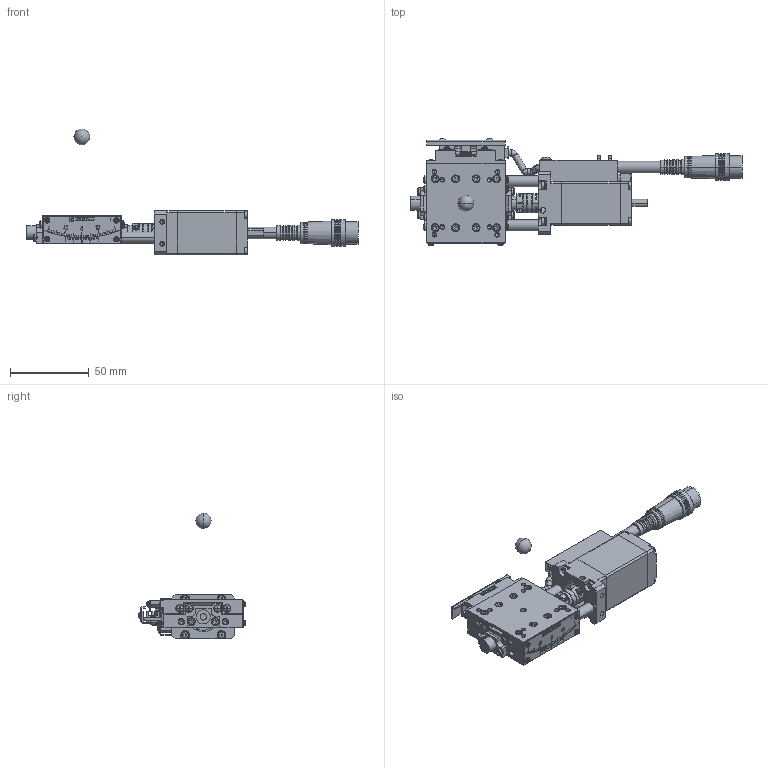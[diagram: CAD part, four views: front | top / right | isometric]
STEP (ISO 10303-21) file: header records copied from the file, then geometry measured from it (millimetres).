
FILE_DESCRIPTION (( 'STEP AP203' ), '1' );
FILE_NAME ('SA05B-RT02.STEP', '2019-02-20T06:37:24', ( '' ), ( '' ), 'SwSTEP 2.0', 'SolidWorks 2018', '' );
FILE_SCHEMA (( 'CONFIG_CONTROL_DESIGN' ));
Length unit declared in the file: millimetre
Products named in the file (8): rotation center; base-Part-3; SA05B-RT02; base-Part-4; base-Part-1; base-Part-2; table; base
Assembly tree (6 placements, depth 3):
  SA05B-RT02
    base
      base-Part-1
      base-Part-2
      base-Part-3
    table
    rotation center
  base-Part-4
Bounding box: 211 x 67.96 x 80 mm (x, y, z)
Volume: 108518.6 mm3; surface area: 48399.5 mm2
Topology: 5 solids, 5 shells, 2707 faces, 6806 edges, 4221 vertices
Faces by surface type: plane 1668, cylinder 633, cone 222, torus 128, sphere 50, bspline 6
Entity records: 83359 total; most frequent: CARTESIAN_POINT 16582, DIRECTION 14280, ORIENTED_EDGE 13410, EDGE_CURVE 6705, AXIS2_PLACEMENT_3D 5028, VECTOR 4224, LINE 4224, VERTEX_POINT 4214
